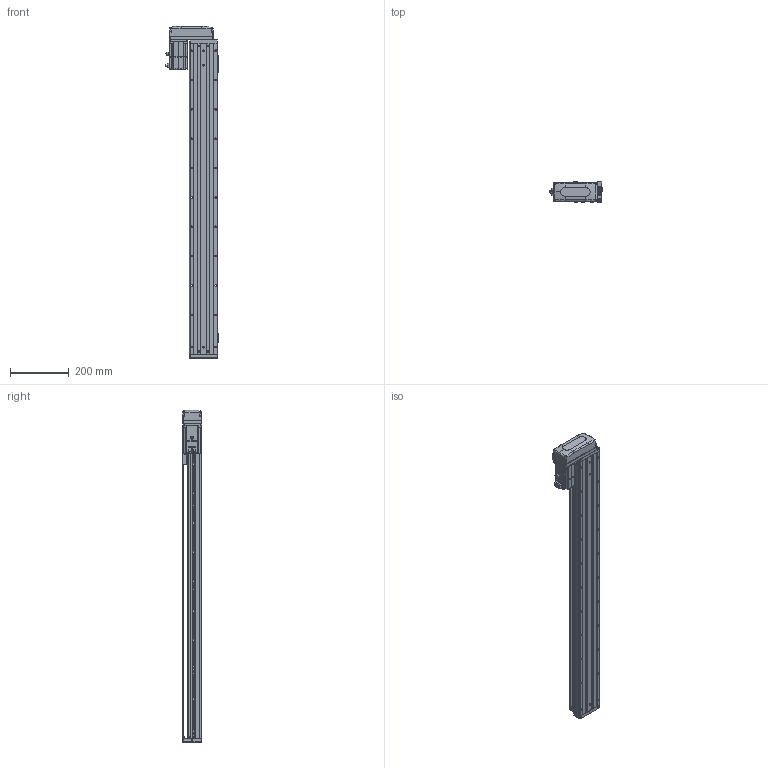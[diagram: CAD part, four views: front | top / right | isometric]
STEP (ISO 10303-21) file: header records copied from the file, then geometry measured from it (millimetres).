
FILE_DESCRIPTION (( 'STEP AP203' ), '1' );
FILE_NAME ('KTHA100-900-BR-M20-C4L.step', '2022-04-26T02:01:30', ( '微软用户' ), ( '微软中国' ), 'SwSTEP 2.0', 'SolidWorks 2020', '' );
FILE_SCHEMA (( 'CONFIG_CONTROL_DESIGN' ));
Length unit declared in the file: millimetre
Products named in the file (17): KTHA100-005; GBT70.1 M5℅16; GB¨uT 70.2-M3¡Á5_M3¡Á6; CTHA60-016; EE_SX911P_R; GBT 70.3-M3℅6; CTHA60-017; _X2_4E0983F1_X0_200W_1; KTHA100-001_1060; CTHA60-021; CTHA86-015-1_CTHA86-015-2; KTHA100-002; GBT77-2000 M3×3; CTHA86-033; KTHA100-004; GBT 70.1-M3℅6; KTHA100-900-BR-M20-C4L
Assembly tree (57 placements, depth 2):
  KTHA100-900-BR-M20-C4L
    KTHA100-001_1060
    KTHA100-002
    KTHA100-004
    KTHA100-005
    GB¨uT 70.2-M3¡Á5_M3¡Á6  x6
    EE_SX911P_R  x3
    CTHA60-017  x3
    CTHA60-021  x2
    GBT77-2000 M3×3  x6
    GBT 70.1-M3℅6  x10
    GBT70.1 M5℅16  x14
    CTHA60-016  x2
    GBT 70.3-M3℅6  x4
    _X2_4E0983F1_X0_200W_1
    CTHA86-015-1_CTHA86-015-2
    CTHA86-033
Bounding box: 178.52 x 68 x 1131 mm (x, y, z)
Volume: 4762361.3 mm3; surface area: 771234.3 mm2
Topology: 60 solids, 60 shells, 2497 faces, 6001 edges, 3724 vertices
Faces by surface type: plane 1280, cylinder 695, cone 315, torus 116, bspline 75, sphere 16
Entity records: 43886 total; most frequent: CARTESIAN_POINT 8784, DIRECTION 6822, ORIENTED_EDGE 6614, EDGE_CURVE 3307, AXIS2_PLACEMENT_3D 2370, VERTEX_POINT 2084, VECTOR 2082, LINE 2082
